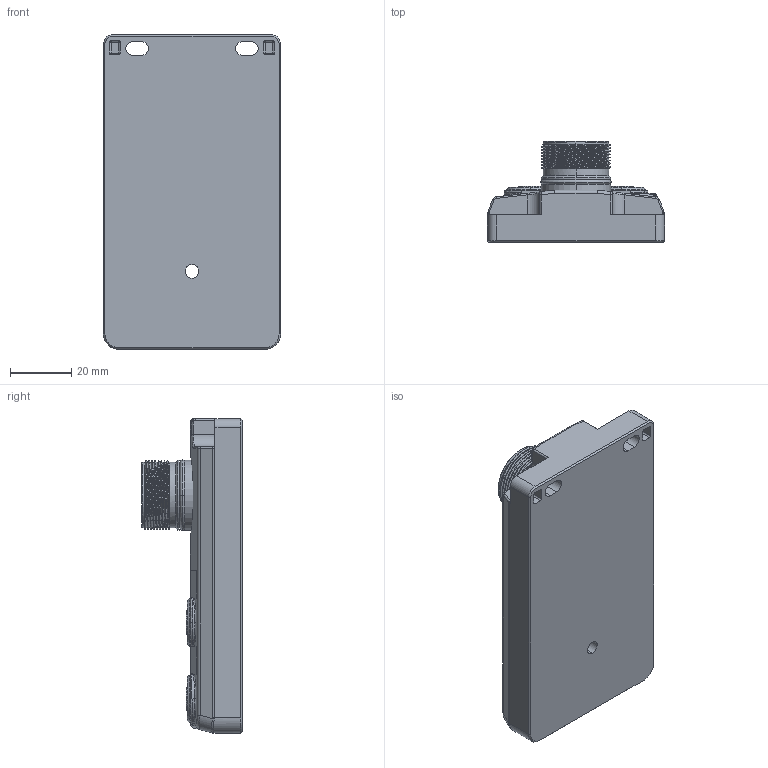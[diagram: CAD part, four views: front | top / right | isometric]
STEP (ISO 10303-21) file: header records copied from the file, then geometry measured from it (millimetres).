
FILE_DESCRIPTION((''),'2;1');
FILE_NAME('ASM0004_ASM','2022-06-01T',('PC'),(''),'PRO/ENGINEER BY PARAMETRIC TECHNOLOGY CORPORATION, 2009220','PRO/ENGINEER BY PARAMETRIC TECHNOLOGY CORPORATION, 2009220','');
FILE_SCHEMA(('CONFIG_CONTROL_DESIGN'));
Length unit declared in the file: millimetre
Products named in the file (8): PRT0002; PRT0003; PRT0004; PRT0005; PRT0006; PRT0007; ASM0005_ASM; ASM0004_ASM
Assembly tree (7 placements, depth 3):
  ASM0004_ASM
    ASM0005_ASM
      PRT0002
      PRT0003
      PRT0004
      PRT0005
      PRT0006
      PRT0007
Bounding box: 58 x 33 x 103 mm (x, y, z)
Volume: 92073.3 mm3; surface area: 32696.7 mm2
Topology: 6 solids, 24 shells, 2512 faces, 6727 edges, 4298 vertices
Faces by surface type: plane 1037, cylinder 866, bspline 266, cone 204, torus 91, extrusion 28, sphere 19, revolution 1
Entity records: 112152 total; most frequent: CARTESIAN_POINT 51018, ORIENTED_EDGE 13408, DIRECTION 11783, EDGE_CURVE 6707, VERTEX_POINT 4298, AXIS2_PLACEMENT_3D 4208, VECTOR 3366, LINE 3338
